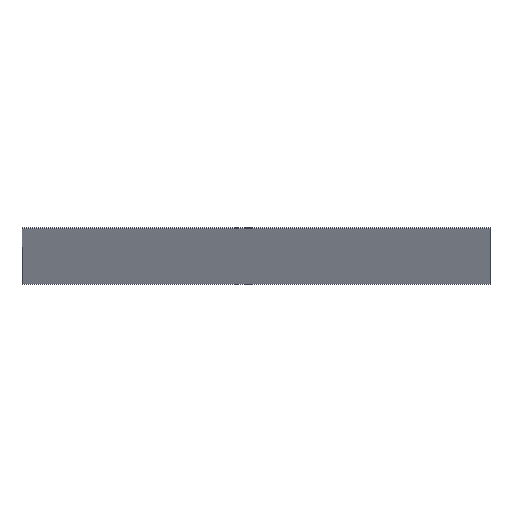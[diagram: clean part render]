
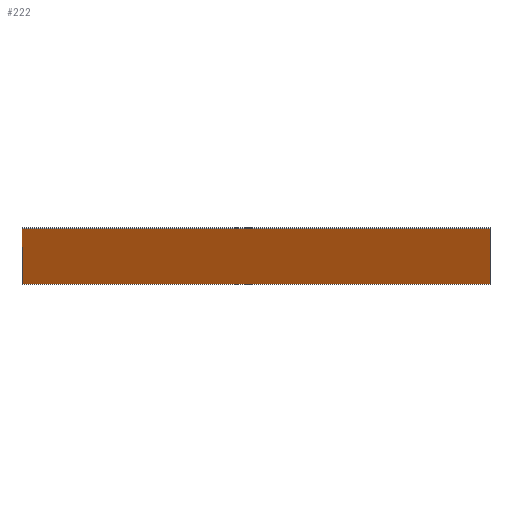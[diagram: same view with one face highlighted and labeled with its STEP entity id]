
A CAD part, left-side view. The second image highlights one B-rep face of the part: STEP entity #222.
In plain terms, the highlighted planar face has unit normal (-0.906, 0, -0.423).
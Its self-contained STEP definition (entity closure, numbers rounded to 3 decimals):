
#62 = PLANE('',#63);
#63 = AXIS2_PLACEMENT_3D('',#64,#65,#66);
#64 = CARTESIAN_POINT('',(176.777,0.15,8.763));
#65 = DIRECTION('',(-0.,-1.,0.));
#66 = DIRECTION('',(-0.46,0.,0.888));
#88 = PLANE('',#89);
#89 = AXIS2_PLACEMENT_3D('',#90,#91,#92);
#90 = CARTESIAN_POINT('',(170.733,110.,21.723));
#91 = DIRECTION('',(0.423,0.,-0.906));
#92 = DIRECTION('',(-0.906,0.,-0.423));
#115 = PLANE('',#116);
#116 = AXIS2_PLACEMENT_3D('',#117,#118,#119);
#117 = CARTESIAN_POINT('',(176.777,110.,8.763));
#118 = DIRECTION('',(-0.,-1.,0.));
#119 = DIRECTION('',(-0.46,0.,0.888));
#139 = PLANE('',#140);
#140 = AXIS2_PLACEMENT_3D('',#141,#142,#143);
#141 = CARTESIAN_POINT('',(176.233,110.,8.509));
#142 = DIRECTION('',(-0.423,0.,0.906));
#143 = DIRECTION('',(0.906,0.,0.423));
#154 = VERTEX_POINT('',#155);
#155 = CARTESIAN_POINT('',(170.189,0.15,21.469));
#176 = EDGE_CURVE('',#154,#177,#179,.T.);
#177 = VERTEX_POINT('',#178);
#178 = CARTESIAN_POINT('',(170.189,110.,21.469));
#179 = SURFACE_CURVE('',#180,(#183,#189),.PCURVE_S1.);
#180 = B_SPLINE_CURVE_WITH_KNOTS('',1,(#181,#182),.UNSPECIFIED.,.F.,.F.,
  (2,2),(0.,1.),.PIECEWISE_BEZIER_KNOTS.);
#181 = CARTESIAN_POINT('',(170.189,0.15,21.469));
#182 = CARTESIAN_POINT('',(170.189,110.,21.469));
#183 = PCURVE('',#88,#184);
#184 = DEFINITIONAL_REPRESENTATION('',(#185),#188);
#185 = B_SPLINE_CURVE_WITH_KNOTS('',1,(#186,#187),.UNSPECIFIED.,.F.,.F.,
  (2,2),(0.,1.),.PIECEWISE_BEZIER_KNOTS.);
#186 = CARTESIAN_POINT('',(0.6,-109.85));
#187 = CARTESIAN_POINT('',(0.6,0.));
#188 = ( GEOMETRIC_REPRESENTATION_CONTEXT(2) 
PARAMETRIC_REPRESENTATION_CONTEXT() REPRESENTATION_CONTEXT('2D SPACE',''
  ) );
#189 = PCURVE('',#190,#195);
#190 = PLANE('',#191);
#191 = AXIS2_PLACEMENT_3D('',#192,#193,#194);
#192 = CARTESIAN_POINT('',(170.189,110.,21.469));
#193 = DIRECTION('',(0.906,-0.,0.423));
#194 = DIRECTION('',(0.423,0.,-0.906));
#195 = DEFINITIONAL_REPRESENTATION('',(#196),#199);
#196 = B_SPLINE_CURVE_WITH_KNOTS('',1,(#197,#198),.UNSPECIFIED.,.F.,.F.,
  (2,2),(0.,1.),.PIECEWISE_BEZIER_KNOTS.);
#197 = CARTESIAN_POINT('',(0.,-109.85));
#198 = CARTESIAN_POINT('',(0.,0.));
#199 = ( GEOMETRIC_REPRESENTATION_CONTEXT(2) 
PARAMETRIC_REPRESENTATION_CONTEXT() REPRESENTATION_CONTEXT('2D SPACE',''
  ) );
#222 = ADVANCED_FACE('',(#223),#190,.F.);
#223 = FACE_BOUND('',#224,.F.);
#224 = EDGE_LOOP('',(#225,#248,#268,#289));
#225 = ORIENTED_EDGE('',*,*,#226,.T.);
#226 = EDGE_CURVE('',#154,#227,#229,.T.);
#227 = VERTEX_POINT('',#228);
#228 = CARTESIAN_POINT('',(176.233,0.15,8.509));
#229 = SURFACE_CURVE('',#230,(#234,#241),.PCURVE_S1.);
#230 = LINE('',#231,#232);
#231 = CARTESIAN_POINT('',(170.189,0.15,21.469));
#232 = VECTOR('',#233,1.);
#233 = DIRECTION('',(0.423,0.,-0.906));
#234 = PCURVE('',#190,#235);
#235 = DEFINITIONAL_REPRESENTATION('',(#236),#240);
#236 = LINE('',#237,#238);
#237 = CARTESIAN_POINT('',(0.,-109.85));
#238 = VECTOR('',#239,1.);
#239 = DIRECTION('',(1.,0.));
#240 = ( GEOMETRIC_REPRESENTATION_CONTEXT(2) 
PARAMETRIC_REPRESENTATION_CONTEXT() REPRESENTATION_CONTEXT('2D SPACE',''
  ) );
#241 = PCURVE('',#62,#242);
#242 = DEFINITIONAL_REPRESENTATION('',(#243),#247);
#243 = LINE('',#244,#245);
#244 = CARTESIAN_POINT('',(14.313,0.));
#245 = VECTOR('',#246,1.);
#246 = DIRECTION('',(-0.999,0.042));
#247 = ( GEOMETRIC_REPRESENTATION_CONTEXT(2) 
PARAMETRIC_REPRESENTATION_CONTEXT() REPRESENTATION_CONTEXT('2D SPACE',''
  ) );
#248 = ORIENTED_EDGE('',*,*,#249,.T.);
#249 = EDGE_CURVE('',#227,#250,#252,.T.);
#250 = VERTEX_POINT('',#251);
#251 = CARTESIAN_POINT('',(176.233,110.,8.509));
#252 = SURFACE_CURVE('',#253,(#256,#262),.PCURVE_S1.);
#253 = B_SPLINE_CURVE_WITH_KNOTS('',1,(#254,#255),.UNSPECIFIED.,.F.,.F.,
  (2,2),(0.,1.),.PIECEWISE_BEZIER_KNOTS.);
#254 = CARTESIAN_POINT('',(176.233,0.15,8.509));
#255 = CARTESIAN_POINT('',(176.233,110.,8.509));
#256 = PCURVE('',#190,#257);
#257 = DEFINITIONAL_REPRESENTATION('',(#258),#261);
#258 = B_SPLINE_CURVE_WITH_KNOTS('',1,(#259,#260),.UNSPECIFIED.,.F.,.F.,
  (2,2),(0.,1.),.PIECEWISE_BEZIER_KNOTS.);
#259 = CARTESIAN_POINT('',(14.3,-109.85));
#260 = CARTESIAN_POINT('',(14.3,0.));
#261 = ( GEOMETRIC_REPRESENTATION_CONTEXT(2) 
PARAMETRIC_REPRESENTATION_CONTEXT() REPRESENTATION_CONTEXT('2D SPACE',''
  ) );
#262 = PCURVE('',#139,#263);
#263 = DEFINITIONAL_REPRESENTATION('',(#264),#267);
#264 = B_SPLINE_CURVE_WITH_KNOTS('',1,(#265,#266),.UNSPECIFIED.,.F.,.F.,
  (2,2),(0.,1.),.PIECEWISE_BEZIER_KNOTS.);
#265 = CARTESIAN_POINT('',(0.,-109.85));
#266 = CARTESIAN_POINT('',(0.,0.));
#267 = ( GEOMETRIC_REPRESENTATION_CONTEXT(2) 
PARAMETRIC_REPRESENTATION_CONTEXT() REPRESENTATION_CONTEXT('2D SPACE',''
  ) );
#268 = ORIENTED_EDGE('',*,*,#269,.F.);
#269 = EDGE_CURVE('',#177,#250,#270,.T.);
#270 = SURFACE_CURVE('',#271,(#275,#282),.PCURVE_S1.);
#271 = LINE('',#272,#273);
#272 = CARTESIAN_POINT('',(170.189,110.,21.469));
#273 = VECTOR('',#274,1.);
#274 = DIRECTION('',(0.423,0.,-0.906));
#275 = PCURVE('',#190,#276);
#276 = DEFINITIONAL_REPRESENTATION('',(#277),#281);
#277 = LINE('',#278,#279);
#278 = CARTESIAN_POINT('',(0.,0.));
#279 = VECTOR('',#280,1.);
#280 = DIRECTION('',(1.,0.));
#281 = ( GEOMETRIC_REPRESENTATION_CONTEXT(2) 
PARAMETRIC_REPRESENTATION_CONTEXT() REPRESENTATION_CONTEXT('2D SPACE',''
  ) );
#282 = PCURVE('',#115,#283);
#283 = DEFINITIONAL_REPRESENTATION('',(#284),#288);
#284 = LINE('',#285,#286);
#285 = CARTESIAN_POINT('',(14.313,0.));
#286 = VECTOR('',#287,1.);
#287 = DIRECTION('',(-0.999,0.042));
#288 = ( GEOMETRIC_REPRESENTATION_CONTEXT(2) 
PARAMETRIC_REPRESENTATION_CONTEXT() REPRESENTATION_CONTEXT('2D SPACE',''
  ) );
#289 = ORIENTED_EDGE('',*,*,#176,.F.);
